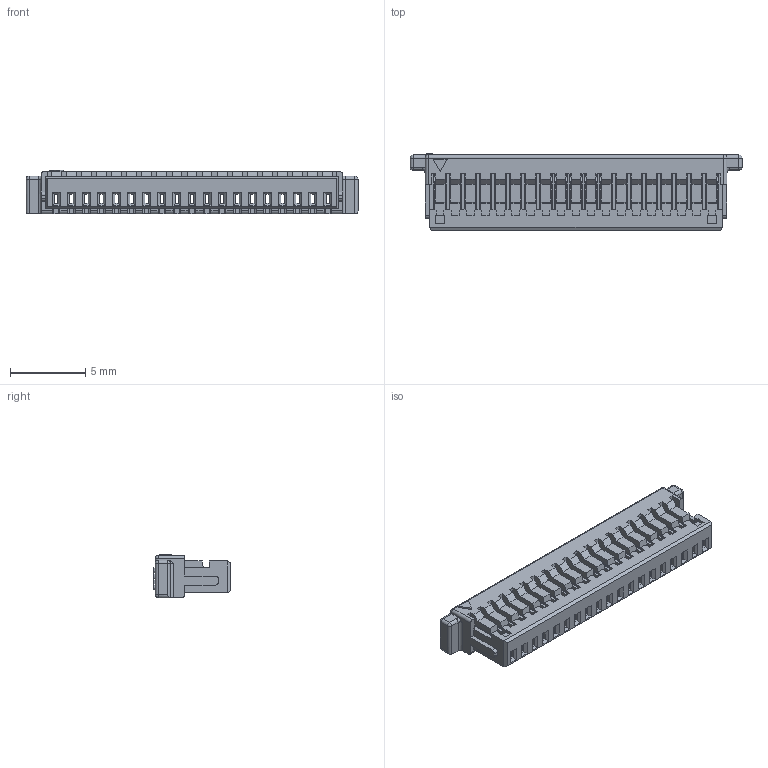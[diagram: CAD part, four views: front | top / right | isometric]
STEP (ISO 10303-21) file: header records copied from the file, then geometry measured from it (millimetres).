
FILE_DESCRIPTION((''),'2;1');
FILE_NAME('S-50233-019HXXX-XXX','2010-11-22T',('ouchwu'),(''),'PRO/ENGINEER BY PARAMETRIC TECHNOLOGY CORPORATION, 2007450','PRO/ENGINEER BY PARAMETRIC TECHNOLOGY CORPORATION, 2007450','');
FILE_SCHEMA(('CONFIG_CONTROL_DESIGN'));
Length unit declared in the file: millimetre
Products named in the file (1): S-50233-019HXXX-XXX
Bounding box: 22 x 5.1 x 2.9 mm (x, y, z)
Volume: 117.4 mm3; surface area: 785.2 mm2
Topology: 1 solids, 1 shells, 1214 faces, 3459 edges, 2226 vertices
Faces by surface type: plane 1122, cylinder 82, sphere 8, torus 2
Entity records: 38685 total; most frequent: CARTESIAN_POINT 6936, ORIENTED_EDGE 6902, DIRECTION 6033, EDGE_CURVE 3451, VECTOR 3283, LINE 3283, VERTEX_POINT 2226, AXIS2_PLACEMENT_3D 1375
